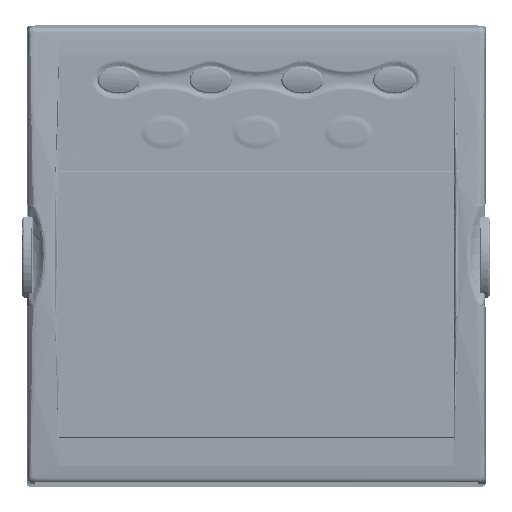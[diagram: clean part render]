
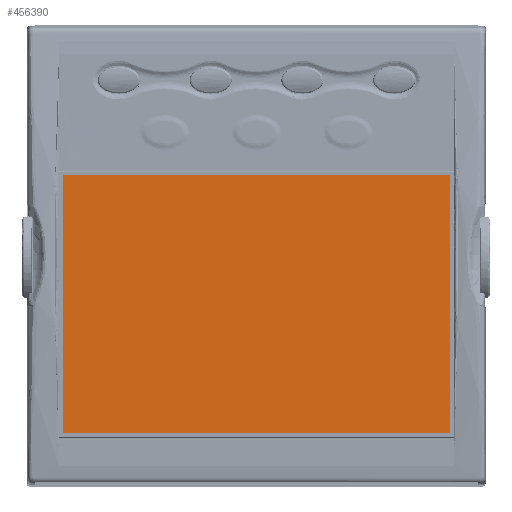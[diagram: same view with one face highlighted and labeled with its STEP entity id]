
A CAD part, top view. The second image highlights one B-rep face of the part: STEP entity #456390.
In plain terms, the highlighted planar face has unit normal (0, 0, 1).
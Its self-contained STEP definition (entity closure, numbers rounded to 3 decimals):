
#442128=DIRECTION('',(1.,0.,0.));
#442129=VECTOR('',#442128,80.9);
#442130=CARTESIAN_POINT('',(7.552,11.559,
-2.994));
#442131=LINE('',#442130,#442129);
#442132=DIRECTION('',(0.,1.,0.));
#442133=VECTOR('',#442132,53.898);
#442134=CARTESIAN_POINT('',(88.452,11.559,
-2.994));
#442135=LINE('',#442134,#442133);
#442140=DIRECTION('',(-1.,0.,0.));
#442141=VECTOR('',#442140,80.9);
#442142=CARTESIAN_POINT('',(88.452,65.457,
-2.994));
#442143=LINE('',#442142,#442141);
#442148=DIRECTION('',(0.,-1.,0.));
#442149=VECTOR('',#442148,53.898);
#442150=CARTESIAN_POINT('',(7.552,65.457,
-2.994));
#442151=LINE('',#442150,#442149);
#453569=CARTESIAN_POINT('',(7.552,11.559,
-2.994));
#453570=CARTESIAN_POINT('',(88.452,11.559,
-2.994));
#453571=VERTEX_POINT('',#453569);
#453572=VERTEX_POINT('',#453570);
#453573=CARTESIAN_POINT('',(7.552,65.457,
-2.994));
#453574=VERTEX_POINT('',#453573);
#453575=CARTESIAN_POINT('',(88.452,65.457,
-2.994));
#453576=VERTEX_POINT('',#453575);
#456375=CARTESIAN_POINT('',(48.002,38.508,
-2.994));
#456376=DIRECTION('',(0.,0.,1.));
#456377=DIRECTION('',(1.,0.,0.));
#456378=AXIS2_PLACEMENT_3D('',#456375,#456376,#456377);
#456379=PLANE('',#456378);
#456381=ORIENTED_EDGE('',*,*,#456380,.F.);
#456383=ORIENTED_EDGE('',*,*,#456382,.F.);
#456385=ORIENTED_EDGE('',*,*,#456384,.F.);
#456387=ORIENTED_EDGE('',*,*,#456386,.F.);
#456388=EDGE_LOOP('',(#456381,#456383,#456385,#456387));
#456389=FACE_OUTER_BOUND('',#456388,.F.);
#456380=EDGE_CURVE('',#453571,#453572,#442131,.T.);
#456382=EDGE_CURVE('',#453574,#453571,#442151,.T.);
#456384=EDGE_CURVE('',#453576,#453574,#442143,.T.);
#456386=EDGE_CURVE('',#453572,#453576,#442135,.T.);
#456390=ADVANCED_FACE('',(#456389),#456379,.T.);
